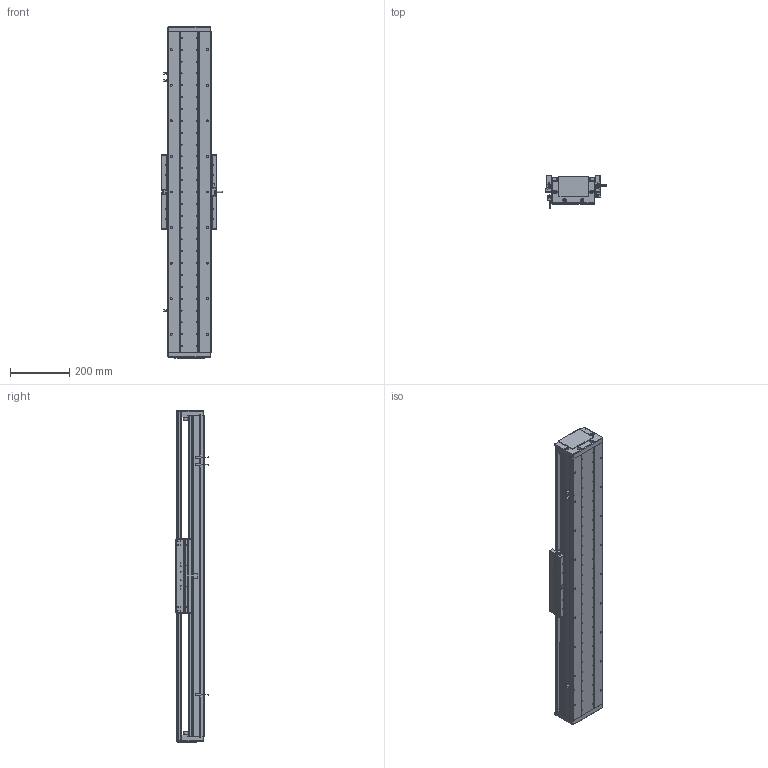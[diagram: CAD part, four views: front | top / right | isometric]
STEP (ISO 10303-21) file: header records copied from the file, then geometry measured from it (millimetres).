
FILE_DESCRIPTION (( 'STEP AP203' ), '1' );
FILE_NAME ('DA-C145-C3-T780-C010-0.2 眻盄萇儂.STEP', '2025-08-14T01:19:06', ( '' ), ( '' ), 'SwSTEP 2.0', 'SolidWorks 2019', '' );
FILE_SCHEMA (( 'CONFIG_CONTROL_DESIGN' ));
Length unit declared in the file: millimetre
Products named in the file (29): 葩璃 DA95-GT-T-00^IU-CU145-L 菁釱絳寢; 葩璃 CKM03-W060-C1C2-TP-0.2^DA-C145-C3-T-C010-0.2; 复件 DA95-HK-GT-00 滑块钢轨^CU145-W-00 一体化滑动台板; IU-CU145-L-00 菁釱(L1080); 复件 DA95-MFP-01 密封片^CU145-W 滚珠滑台; 复件 内六角平端紧定螺钉 GB.T77-2000 M5×10^CU145-W 滚珠滑台; DA-C145-C3-T780-C010-0.2 眻盄萇儂; TAY01-M8; 66245-CU145-HT-W-00 賑雄怢啣(3D芞祧)(00); 葩璃 DMA-010-0.2 黍杅芛^DA-C145-C3-T-C010-0.2; 复件 DA95-DB-00  挡板^CU145-W 滚珠滑台; 葩璃 DA95-HXJ-00 遣喳砎蝶^DA-C145-C3-T-C010-0.2; 葩璃 DA145-DG-H-N-00 傷裔^DA-C145-C3-T-C010-0.2; IU-CU145-L 菁釱絳寢; 复件 DA145-C3-YB-B-00 压板B^CU145-W 滚珠滑台; 葩璃 DA145-T-003-00 裔啣^DA-C145-C3-T-C010-0.2; 复件 纯铜油杯 6x6mm^CU145-W 滚珠滑台; CU145-W-00 珨极趙賑雄怢啣; 葩璃 PM-T45^DA-C145-C3-T-C010-0.2; 葩璃 鞠褒情蹟譫 M3^DA-C145-C3-T-C010-0.2; 葩璃 DA145-C3-DP-B-00 菜えB^CU145-W 幗紩賑怢; 葩璃 DA145-C3-DP-A-00 菜えA^CU145-W 幗紩賑怢; 葩璃 XD-U-02L 棠掑喜^DA-C145-C3-T-C010-0.2; 复件 半圆头内六角螺钉 M3×6^CU145-W 滚珠滑台; 复件 DA145-C3-DK-00 挡块^CU145-W 滚珠滑台; 复件 DA145-GYP-00 光电感应片^DA-C145-C3-T-C010-0.2; 复件 DA145-C3-YB-A-00 压板A^CU145-W 滚珠滑台; 葩璃 CKMA01-W060-TRL^DA-C145-C3-T-C010-0.2; CU145-W 幗紩賑怢
Assembly tree (98 placements, depth 4):
  DA-C145-C3-T780-C010-0.2 眻盄萇儂
    IU-CU145-L 菁釱絳寢
      IU-CU145-L-00 菁釱(L1080)
      葩璃 DA95-GT-T-00^IU-CU145-L 菁釱絳寢  x4
    CU145-W 幗紩賑怢
      CU145-W-00 珨极趙賑雄怢啣
        66245-CU145-HT-W-00 賑雄怢啣(3D芞祧)(00)
        复件 DA95-HK-GT-00 滑块钢轨^CU145-W-00 一体化滑动台板  x8
      复件 DA95-MFP-01 密封片^CU145-W 滚珠滑台  x8
      复件 DA95-DB-00  挡板^CU145-W 滚珠滑台  x8
      复件 内六角平端紧定螺钉 GB.T77-2000 M5×10^CU145-W 滚珠滑台  x4
      复件 纯铜油杯 6x6mm^CU145-W 滚珠滑台  x4
      复件 半圆头内六角螺钉 M3×6^CU145-W 滚珠滑台  x16
      复件 DA145-C3-DK-00 挡块^CU145-W 滚珠滑台  x4
      葩璃 DA145-C3-DP-B-00 菜えB^CU145-W 幗紩賑怢  x2
      复件 DA145-C3-YB-B-00 压板B^CU145-W 滚珠滑台  x2
      葩璃 DA145-C3-DP-A-00 菜えA^CU145-W 幗紩賑怢  x3
      复件 DA145-C3-YB-A-00 压板A^CU145-W 滚珠滑台  x3
      TAY01-M8  x4
    葩璃 CKMA01-W060-TRL^DA-C145-C3-T-C010-0.2
    葩璃 PM-T45^DA-C145-C3-T-C010-0.2  x3
    葩璃 XD-U-02L 棠掑喜^DA-C145-C3-T-C010-0.2
    葩璃 DA145-DG-H-N-00 傷裔^DA-C145-C3-T-C010-0.2  x2
    葩璃 DA145-T-003-00 裔啣^DA-C145-C3-T-C010-0.2
    葩璃 DA95-HXJ-00 遣喳砎蝶^DA-C145-C3-T-C010-0.2  x4
    复件 DA145-GYP-00 光电感应片^DA-C145-C3-T-C010-0.2
    葩璃 DMA-010-0.2 黍杅芛^DA-C145-C3-T-C010-0.2
    葩璃 CKM03-W060-C1C2-TP-0.2^DA-C145-C3-T-C010-0.2
    葩璃 鞠褒情蹟譫 M3^DA-C145-C3-T-C010-0.2  x8
Bounding box: 203.5 x 108.45 x 1120 mm (x, y, z)
Volume: 7277785.3 mm3; surface area: 2134825.7 mm2
Topology: 95 solids, 127 shells, 3973 faces, 10599 edges, 6544 vertices
Faces by surface type: cylinder 1682, plane 1575, cone 626, torus 86, sphere 4
Entity records: 91957 total; most frequent: CARTESIAN_POINT 23226, DIRECTION 13437, ORIENTED_EDGE 13196, EDGE_CURVE 6598, AXIS2_PLACEMENT_3D 5000, VERTEX_POINT 4233, VECTOR 3437, LINE 3437
